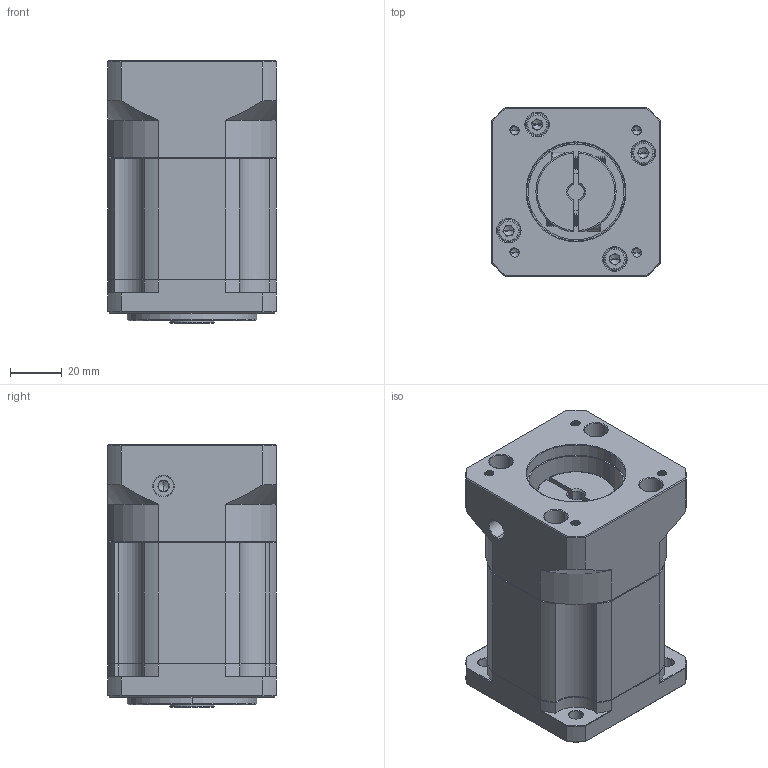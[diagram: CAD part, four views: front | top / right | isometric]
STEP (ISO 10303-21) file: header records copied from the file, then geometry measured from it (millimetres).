
FILE_DESCRIPTION (( 'STEP AP214' ), '1' );
FILE_NAME ('ZB060-K10-L2-P2-6.35-38.1-47.14X47.14-M4.step', '2023-08-16T07:11:48', ( '' ), ( '' ), 'SwSTEP 2.0', 'SolidWorks 2016', '' );
FILE_SCHEMA (( 'AUTOMOTIVE_DESIGN' ));
Length unit declared in the file: millimetre
Products named in the file (1): ZB060-K10-L2-P2-6.35-38.1-47.14X47.14-M4
Bounding box: 65 x 65 x 101.5 mm (x, y, z)
Volume: 327786.9 mm3; surface area: 57347.8 mm2
Topology: 6 solids, 6 shells, 2101 faces, 5654 edges, 3644 vertices
Faces by surface type: plane 1056, bspline 390, cylinder 342, cone 279, torus 34
Entity records: 108962 total; most frequent: CARTESIAN_POINT 35964, ORIENTED_EDGE 11252, DIRECTION 8948, EDGE_CURVE 5626, VERTEX_POINT 3644, VECTOR 3584, LINE 3584, AXIS2_PLACEMENT_3D 2682
